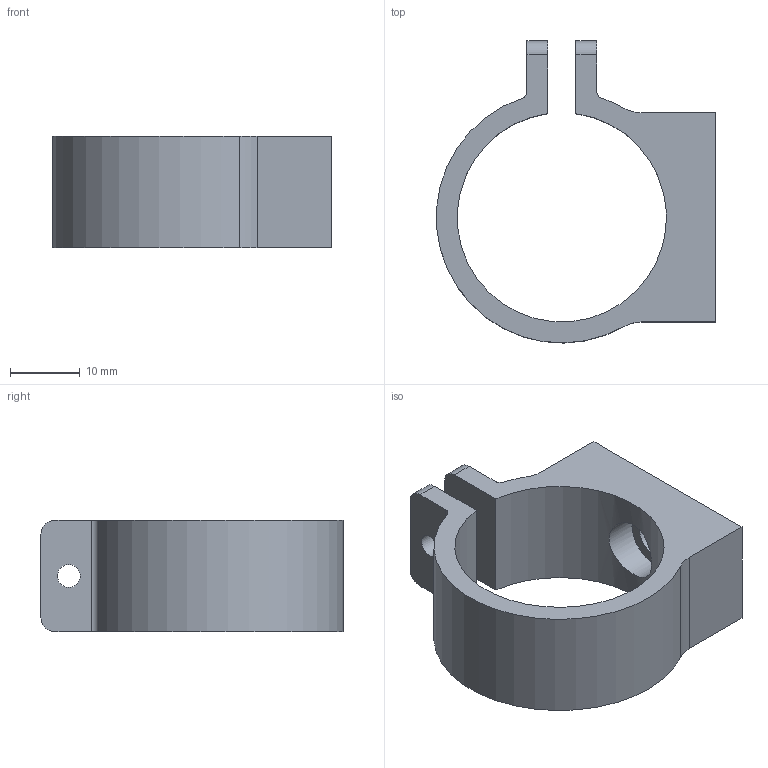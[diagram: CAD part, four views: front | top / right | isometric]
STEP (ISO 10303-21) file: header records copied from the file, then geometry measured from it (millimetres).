
FILE_DESCRIPTION(/* description */ (''),/* implementation_level */ '2;1');
FILE_NAME(/* name */ 'Locator_D1_Clamp.stp',/* time_stamp */ '2017-06-17T12:48:24+02:00',/* author */ (''),/* organization */ (''),/* preprocessor_version */ 'ST-DEVELOPER v16.13',/* originating_system */ 'Autodesk Translation Framework v6.1.1.50',/* authorisation */ '');
FILE_SCHEMA (('AUTOMOTIVE_DESIGN { 1 0 10303 214 3 1 1 }'));
Length unit declared in the file: millimetre
Products named in the file (1): Locator clamp Ø30
Bounding box: 39.94 x 43.29 x 16 mm (x, y, z)
Volume: 8218.3 mm3; surface area: 5271.4 mm2
Topology: 1 solids, 1 shells, 28 faces, 77 edges, 52 vertices
Faces by surface type: cylinder 15, plane 13
Full cylindrical faces by diameter (mm): 3.3 x2, 5.5 x1, 8.6 x1
Entity records: 933 total; most frequent: CARTESIAN_POINT 183, DIRECTION 157, ORIENTED_EDGE 142, EDGE_CURVE 71, AXIS2_PLACEMENT_3D 58, VERTEX_POINT 50, LINE 41, VECTOR 41
